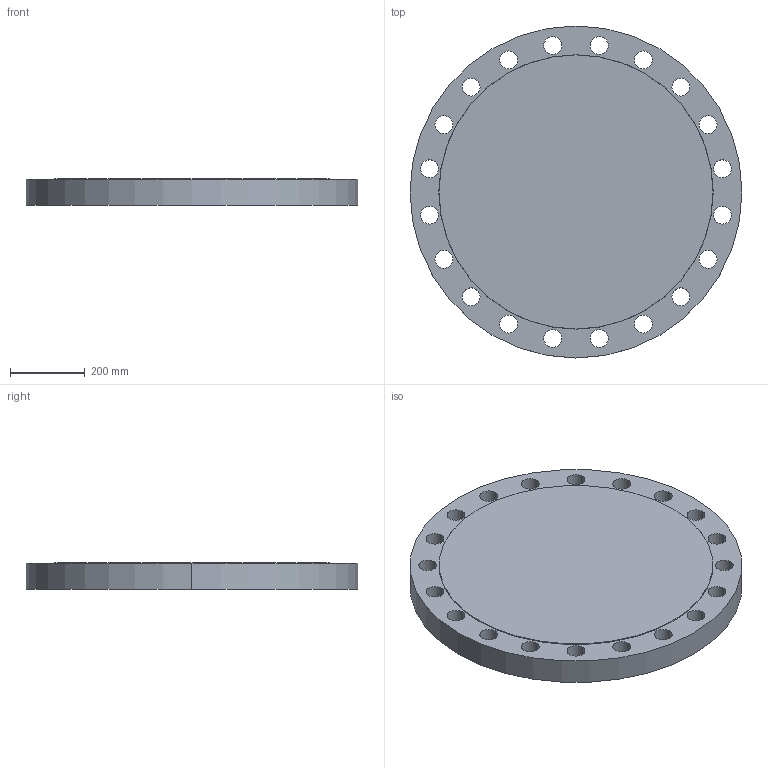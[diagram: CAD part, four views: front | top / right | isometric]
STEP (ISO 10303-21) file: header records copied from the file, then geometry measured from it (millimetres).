
FILE_DESCRIPTION (( 'STEP AP214' ), '1' );
FILE_NAME ('PN40 DN600 Type 05 - Type B Face.STEP', '2018-12-28T23:15:04', ( '' ), ( '' ), 'SwSTEP 2.0', 'SolidWorks 2019', '' );
FILE_SCHEMA (( 'AUTOMOTIVE_DESIGN' ));
Length unit declared in the file: millimetre
Products named in the file (1): PN40 DN600 Type 05 - Type B Face
Bounding box: 890 x 890 x 72 mm (x, y, z)
Volume: 41863989.7 mm3; surface area: 1582558.7 mm2
Topology: 1 solids, 1 shells, 47 faces, 132 edges, 88 vertices
Faces by surface type: cylinder 42, plane 3, cone 2
Entity records: 1688 total; most frequent: DIRECTION 316, CARTESIAN_POINT 268, ORIENTED_EDGE 264, AXIS2_PLACEMENT_3D 136, EDGE_CURVE 132, CIRCLE 88, VERTEX_POINT 88, EDGE_LOOP 88
